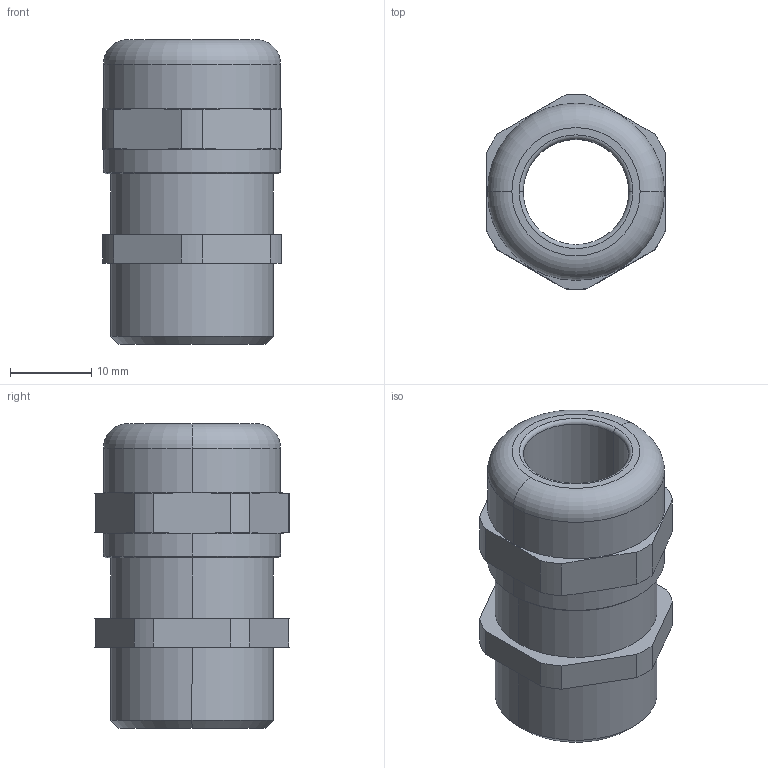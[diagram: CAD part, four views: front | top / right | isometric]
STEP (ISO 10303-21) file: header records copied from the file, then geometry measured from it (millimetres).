
FILE_DESCRIPTION (( 'STEP AP203' ), '1' );
FILE_NAME ('50.620 M-L.STEP', '2005-10-05T06:59:15', ( ' ' ), ( '' ), 'SwSTEP 2.0', 'SolidWorks 2005143', '' );
FILE_SCHEMA (( 'CONFIG_CONTROL_DESIGN' ));
Length unit declared in the file: millimetre
Products named in the file (1): 50.620 M-L
Bounding box: 22 x 23.98 x 37.5 mm (x, y, z)
Volume: 8167.6 mm3; surface area: 4655.4 mm2
Topology: 1 solids, 1 shells, 88 faces, 228 edges, 148 vertices
Faces by surface type: plane 54, cylinder 22, cone 8, torus 4
Entity records: 2777 total; most frequent: CARTESIAN_POINT 521, ORIENTED_EDGE 456, DIRECTION 446, EDGE_CURVE 228, VECTOR 156, LINE 156, VERTEX_POINT 148, AXIS2_PLACEMENT_3D 145
